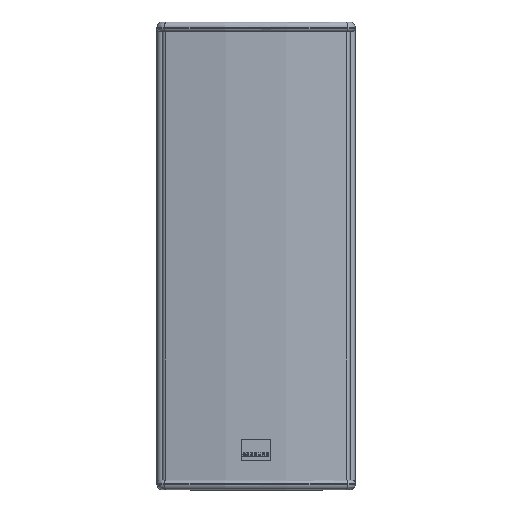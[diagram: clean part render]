
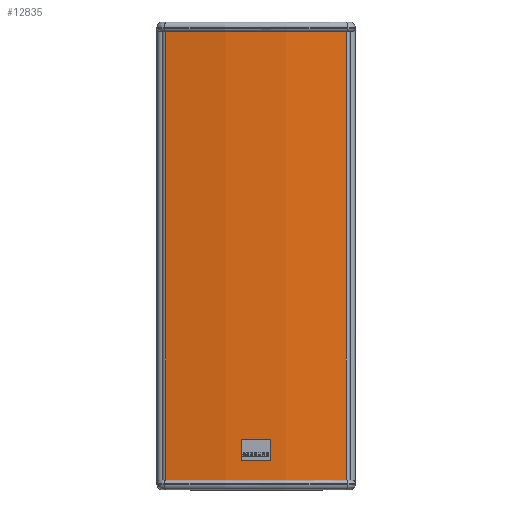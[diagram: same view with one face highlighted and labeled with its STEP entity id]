
A CAD part, top view. The second image highlights one B-rep face of the part: STEP entity #12835.
In plain terms, the highlighted cylindrical face has radius 561.105 mm (diameter 1122.21 mm), a partial arc.
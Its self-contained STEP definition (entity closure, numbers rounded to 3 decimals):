
#4283 = DIRECTION ( 'NONE',  ( 1., 0., 0. ) ) ;
#4284 = DIRECTION ( 'NONE',  ( 0., 0., 1. ) ) ;
#4285 = CARTESIAN_POINT ( 'NONE',  ( 125.331, 566.928, 0. ) ) ;
#4286 = AXIS2_PLACEMENT_3D ( 'NONE', #4285, #4284, #4283 ) ;
#4288 = CYLINDRICAL_SURFACE ( 'NONE', #4286, 561.105 ) ;
#4293 = FACE_OUTER_BOUND ( 'NONE', #12789, .T. ) ;
#4295 = DIRECTION ( 'NONE',  ( 1., 0., 0. ) ) ;
#4296 = DIRECTION ( 'NONE',  ( 0., 0., 1. ) ) ;
#4297 = CARTESIAN_POINT ( 'NONE',  ( 125.331, 566.928, 0. ) ) ;
#4298 = AXIS2_PLACEMENT_3D ( 'NONE', #4297, #4296, #4295 ) ;
#4299 = CIRCLE ( 'NONE', #4298, 561.105 ) ;
#4307 = CARTESIAN_POINT ( 'NONE',  ( 11.15, 17.563, 0. ) ) ;
#4395 = EDGE_CURVE ( 'NONE', #12853, #13054, #9227, .T. ) ;
#4410 = ORIENTED_EDGE ( 'NONE', *, *, #4395, .F. ) ;
#5201 = CARTESIAN_POINT ( 'NONE',  ( 11.15, 17.563, 566. ) ) ;
#5228 = DIRECTION ( 'NONE',  ( 0., 0., -1. ) ) ;
#5229 = VECTOR ( 'NONE', #5228, 1000. ) ;
#5231 = CARTESIAN_POINT ( 'NONE',  ( 239.274, 17.513, 0. ) ) ;
#5232 = LINE ( 'NONE', #5231, #5229 ) ;
#5261 = CARTESIAN_POINT ( 'NONE',  ( 239.274, 17.513, 0. ) ) ;
#5263 = CARTESIAN_POINT ( 'NONE',  ( 239.274, 17.513, 566. ) ) ;
#5353 = DIRECTION ( 'NONE',  ( 1., 0., 0. ) ) ;
#5355 = DIRECTION ( 'NONE',  ( 0., 0., 1. ) ) ;
#5357 = CARTESIAN_POINT ( 'NONE',  ( 125.331, 566.928, 566. ) ) ;
#5359 = AXIS2_PLACEMENT_3D ( 'NONE', #5357, #5355, #5353 ) ;
#5361 = CIRCLE ( 'NONE', #5359, 561.105 ) ;
#9224 = DIRECTION ( 'NONE',  ( 0., 0., 1. ) ) ;
#9225 = VECTOR ( 'NONE', #9224, 1000. ) ;
#9226 = CARTESIAN_POINT ( 'NONE',  ( 11.15, 17.563, 0. ) ) ;
#9227 = LINE ( 'NONE', #9226, #9225 ) ;
#12789 = EDGE_LOOP ( 'NONE', ( #12858, #13073, #13085, #4410 ) ) ;
#12835 = ADVANCED_FACE ( 'NONE', ( #4293 ), #4288, .T. ) ;
#12853 = VERTEX_POINT ( 'NONE', #4307 ) ;
#12858 = ORIENTED_EDGE ( 'NONE', *, *, #12859, .T. ) ;
#12859 = EDGE_CURVE ( 'NONE', #12853, #13076, #4299, .T. ) ;
#13054 = VERTEX_POINT ( 'NONE', #5201 ) ;
#13073 = ORIENTED_EDGE ( 'NONE', *, *, #13084, .F. ) ;
#13075 = VERTEX_POINT ( 'NONE', #5263 ) ;
#13076 = VERTEX_POINT ( 'NONE', #5261 ) ;
#13084 = EDGE_CURVE ( 'NONE', #13075, #13076, #5232, .T. ) ;
#13085 = ORIENTED_EDGE ( 'NONE', *, *, #13086, .F. ) ;
#13086 = EDGE_CURVE ( 'NONE', #13054, #13075, #5361, .T. ) ;
